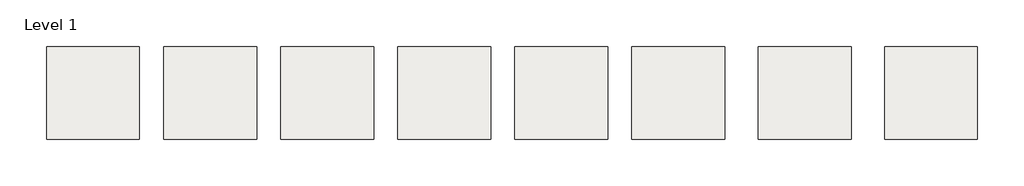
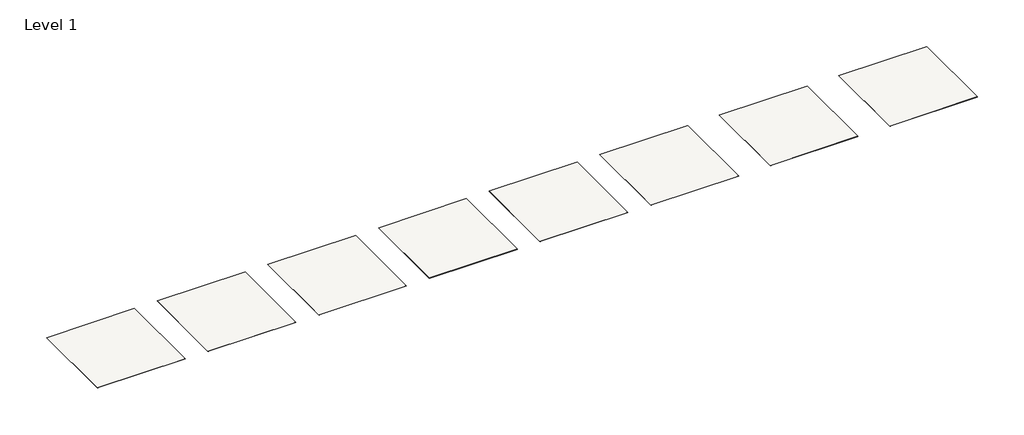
# One storey: 8 slabs.
"""IFC4 building model written with IfcOpenShell, lengths in millimetres."""

import ifcopenshell
import ifcopenshell.guid

model = None  # the IFC model being written
_history = None  # IfcOwnerHistory: only IFC2X3 demands one
_inside = {}  # id of a spatial element -> (the spatial element, [elements in it])
_under = {}  # id of a project, library or spatial element -> (it, [spatial elements below it])
_declared = {}  # id of a project -> (the project, [libraries it declares])
_typed = {}  # id of a type object -> (the type object, [elements of that type])
_made_of = {}  # id of a material, layer set ... -> (it, [elements and type objects made of it])


def new_model(schema):
    """Start an empty IFC model of exactly this schema.

    Asked for "IFC4X3", IfcOpenShell would pick the latest addendum, in which some entities
    have other attributes; the version numbers below select the first issue.
    IFC2X3 requires an IfcOwnerHistory on every rooted entity: one is made here for all.
    """
    global model, _history
    if schema == "IFC4X3":
        model = ifcopenshell.file(schema_version=(4, 3, 0, 0))
    else:
        model = ifcopenshell.file(schema=schema)
    _inside.clear()
    _under.clear()
    _declared.clear()
    _typed.clear()
    _made_of.clear()
    _history = None
    if model.schema == "IFC2X3":
        org = make("IfcOrganization", Name="unknown")
        user = make(
            "IfcPersonAndOrganization",
            ThePerson=make("IfcPerson", FamilyName="unknown"),
            TheOrganization=org,
        )
        app = make(
            "IfcApplication",
            ApplicationDeveloper=org,
            Version="unknown",
            ApplicationFullName="unknown",
            ApplicationIdentifier="unknown",
        )
        _history = make(
            "IfcOwnerHistory",
            OwningUser=user,
            OwningApplication=app,
            ChangeAction="ADDED",
            CreationDate=0,
        )
    return model


def make(cls, **values):
    """One entity of the class cls with the attributes given. An attribute that is None is left unset."""
    return model.create_entity(
        cls, **{name: value for name, value in values.items() if value is not None}
    )


def rooted(cls, **values):
    """An entity with a GlobalId (a new one), such as an element, a storey or a relation."""
    return make(cls, GlobalId=ifcopenshell.guid.new(), OwnerHistory=_history, **values)


def si_unit(unit_type, name, prefix=None):
    """IfcSIUnit, for example si_unit("LENGTHUNIT", "METRE", prefix="MILLI")."""
    return make("IfcSIUnit", UnitType=unit_type, Prefix=prefix, Name=name)


def assignment(units):
    """IfcUnitAssignment: the units of a project."""
    return None if units is None else make("IfcUnitAssignment", Units=units)


def point(xyz):
    """IfcCartesianPoint."""
    return None if xyz is None else make("IfcCartesianPoint", Coordinates=xyz)


def direction(xyz):
    """IfcDirection."""
    return None if xyz is None else make("IfcDirection", DirectionRatios=xyz)


def frame(location, z_axis=None, x_axis=None):
    """IfcAxis2Placement3D, a coordinate frame: its origin and axes. An axis left out is left unset."""
    return make(
        "IfcAxis2Placement3D",
        Location=point(location),
        Axis=direction(z_axis),
        RefDirection=direction(x_axis),
    )


def origin():
    """The frame at (0, 0, 0) with its axes left unset."""
    return frame((0.0, 0.0, 0.0))


def place(relative_to, where):
    """IfcLocalPlacement: puts the frame where relative to a parent placement (None: the world)."""
    return make(
        "IfcLocalPlacement", PlacementRelTo=relative_to, RelativePlacement=where
    )


def context(
    kind, dimensions, precision=None, world=None, true_north=None, identifier=None
):
    """IfcGeometricRepresentationContext, for example the 3D "Model" context."""
    return make(
        "IfcGeometricRepresentationContext",
        ContextIdentifier=identifier,
        ContextType=kind,
        CoordinateSpaceDimension=dimensions,
        Precision=precision,
        WorldCoordinateSystem=world,
        TrueNorth=true_north,
    )


def project(units=None, contexts=None):
    """IfcProject with its units and contexts."""
    return rooted(
        "IfcProject",
        Name="project",
        RepresentationContexts=contexts,
        UnitsInContext=assignment(units),
    )


def spatial(cls, under=None, at=None, **own):
    """A site, building, storey or space (cls), placed at a placement, below another one or the project."""
    s = rooted(cls, ObjectPlacement=at, **own)
    if under is not None:
        _under.setdefault(under.id(), (under, []))[1].append(s)
    return s


def polyline(points):
    """IfcPolyline through the points."""
    return make("IfcPolyline", Points=[point(p) for p in points])


def outline(outer, holes=None, kind="AREA"):
    """IfcArbitraryClosedProfileDef: a profile drawn as a closed curve; with holes, ...WithVoids."""
    if holes is None:
        return make("IfcArbitraryClosedProfileDef", ProfileType=kind, OuterCurve=outer)
    return make(
        "IfcArbitraryProfileDefWithVoids",
        ProfileType=kind,
        OuterCurve=outer,
        InnerCurves=holes,
    )


def extrude(swept, where, along, depth):
    """IfcExtrudedAreaSolid: the profile swept, set in the frame where, extruded along a direction by depth."""
    return make(
        "IfcExtrudedAreaSolid",
        SweptArea=swept,
        Position=where,
        ExtrudedDirection=direction(along),
        Depth=depth,
    )


def shape(context_of_items, identifier, shape_type, items):
    """IfcShapeRepresentation: the items that make up one representation, for example the "Body"."""
    return make(
        "IfcShapeRepresentation",
        ContextOfItems=context_of_items,
        RepresentationIdentifier=identifier,
        RepresentationType=shape_type,
        Items=items,
    )


def made_of(thing, what):
    """Note that an element or type object is made of a material, layer set ...; save() writes the relation."""
    if what is not None:
        _made_of.setdefault(what.id(), (what, []))[1].append(thing)
    return thing


def element(
    cls,
    number,
    at=None,
    inside=None,
    cuts=None,
    type_object=None,
    material=None,
    context=None,
    identifier="Body",
    shape_type=None,
    held_by="IfcProductDefinitionShape",
    body=None,
    shapes=None,
    **own,
):
    """One element of the class cls, such as IfcWall. Its Tag is "e" and its number.

    at: its placement. inside: the storey or other place that contains it. cuts: it is an
    opening in that element (IfcRelVoidsElement). A single representation is given by context,
    identifier, shape_type and body (its items); several are given by shapes. held_by: the class
    of the entity that holds the representations. save() writes the other relations.
    """
    e = rooted(cls, Tag="e%d" % number, ObjectPlacement=at, **own)
    if body is not None:
        shapes = [shape(context, identifier, shape_type, body)]
    if shapes is not None:
        e.Representation = make(held_by, Representations=shapes)
    if inside is not None:
        _inside.setdefault(inside.id(), (inside, []))[1].append(e)
    if cuts is not None:
        rooted(
            "IfcRelVoidsElement", RelatingBuildingElement=cuts, RelatedOpeningElement=e
        )
    if type_object is not None:
        _typed.setdefault(type_object.id(), (type_object, []))[1].append(e)
    return made_of(e, material)


def aggregate(whole, parts):
    """IfcRelAggregates: a whole, such as a stair, and the parts it consists of."""
    return rooted("IfcRelAggregates", RelatingObject=whole, RelatedObjects=parts)


def save(model, path):
    """Write the relations noted so far, then the file.

    IfcRelAggregates (storeys below a building ...), IfcRelContainedInSpatialStructure (elements
    in a storey), IfcRelDefinesByType, IfcRelAssociatesMaterial and IfcRelDeclares: one each for
    every whole, place, type object, material and project.
    """
    for whole, parts in _under.values():
        aggregate(whole, parts)
    for where, things in _inside.values():
        rooted(
            "IfcRelContainedInSpatialStructure",
            RelatedElements=things,
            RelatingStructure=where,
        )
    for kind, things in _typed.values():
        rooted("IfcRelDefinesByType", RelatedObjects=things, RelatingType=kind)
    for what, things in _made_of.values():
        rooted("IfcRelAssociatesMaterial", RelatedObjects=things, RelatingMaterial=what)
    for by, libraries in _declared.values():
        rooted("IfcRelDeclares", RelatingContext=by, RelatedDefinitions=libraries)
    model.write(path)


model = new_model("IFC4")

# Units and contexts
model_context = context("Model", 3, world=origin())
ifc_project = project(units=[si_unit("LENGTHUNIT", "METRE", prefix="MILLI")], contexts=[model_context])

# Site, building, storey
site = spatial("IfcSite", under=ifc_project)
building = spatial("IfcBuilding", under=site)
storey = spatial("IfcBuildingStorey", under=building, Name="Level 1", Elevation=0.0)

# Slabs
placement = place(None, origin())
element("IfcSlab", 1, ObjectType="Thesize_Neolith_3mm+-Basalt Grey- 3600x1200 mm-Satin", at=placement, inside=storey, context=model_context, shape_type="SweptSolid", body=[
    extrude(outline(polyline([(46732.6076717, -34257.477561), (46732.6076717, -39257.477561), (41732.6076717, -39257.477561), (41732.6076717, -34257.477561), (46732.6076717, -34257.477561)])), frame((0.0, 0.0, -3.0), z_axis=(0.0, 0.0, 1.0), x_axis=(1.0, 0.0, 0.0)), (0.0, 0.0, 1.0), 3.0),
])
element("IfcSlab", 2, ObjectType="Thesize_Neolith_6mm+- Basalt Grey- 3200x1500 mm-Satin", at=placement, inside=storey, context=model_context, shape_type="SweptSolid", body=[
    extrude(outline(polyline([(53032.6076717, -34257.4775611), (53032.6076717, -39257.477561), (48032.6076717, -39257.477561), (48032.6076717, -34257.4775611), (53032.6076717, -34257.4775611)])), frame((0.0, 0.0, -6.0), z_axis=(0.0, 0.0, 1.0), x_axis=(1.0, 0.0, 0.0)), (0.0, 0.0, 1.0), 6.0),
])
element("IfcSlab", 3, ObjectType="Thesize_Neolith_12mm- Basalt Grey-3200x1600 mm-Satin", at=placement, inside=storey, context=model_context, shape_type="SweptSolid", body=[
    extrude(outline(polyline([(59332.6076717, -34257.4775611), (59332.6076717, -39257.4775611), (54332.6076717, -39257.4775611), (54332.6076717, -34257.4775611), (59332.6076717, -34257.4775611)])), frame((0.0, 0.0, -12.0), z_axis=(0.0, 0.0, 1.0), x_axis=(1.0, 0.0, 0.0)), (0.0, 0.0, 1.0), 12.0),
])
element("IfcSlab", 4, ObjectType="Thesize_Neolith_20mm- Basalt Grey-3200x1600 mm-Satin", at=placement, inside=storey, context=model_context, shape_type="SweptSolid", body=[
    extrude(outline(polyline([(65632.6076717, -34257.4775611), (65632.6076717, -39257.4775611), (60632.6076717, -39257.4775611), (60632.6076717, -34257.4775611), (65632.6076717, -34257.4775611)])), frame((0.0, 0.0, -20.0), z_axis=(0.0, 0.0, 1.0), x_axis=(1.0, 0.0, 0.0)), (0.0, 0.0, 1.0), 20.0),
])
element("IfcSlab", 5, ObjectType="Thesize_Neolith_12mm- Basalt Grey-3200x1600 mm-Silk", at=placement, inside=storey, context=model_context, shape_type="SweptSolid", body=[
    extrude(outline(polyline([(71932.6076717, -34257.4775611), (71932.6076717, -39257.4775611), (66932.6076717, -39257.4775611), (66932.6076717, -34257.4775611), (71932.6076717, -34257.4775611)])), frame((0.0, 0.0, -12.0), z_axis=(0.0, 0.0, 1.0), x_axis=(1.0, 0.0, 0.0)), (0.0, 0.0, 1.0), 12.0),
])
element("IfcSlab", 6, ObjectType="Thesize_Neolith_6mm+- Basalt Grey- 3200x1500 mm-Silk", at=placement, inside=storey, context=model_context, shape_type="SweptSolid", body=[
    extrude(outline(polyline([(78232.6076717, -34257.4775611), (78232.6076717, -39257.4775611), (73232.6076717, -39257.4775611), (73232.6076717, -34257.4775611), (78232.6076717, -34257.4775611)])), frame((0.0, 0.0, -6.0), z_axis=(0.0, 0.0, 1.0), x_axis=(1.0, 0.0, 0.0)), (0.0, 0.0, 1.0), 6.0),
])
element("IfcSlab", 7, ObjectType="Thesize_Neolith_6mm+-Basalt Grey- 3600x1200 mm-Satin", at=placement, inside=storey, context=model_context, shape_type="SweptSolid", body=[
    extrude(outline(polyline([(85032.6076717, -34257.4775611), (85032.6076717, -39257.4775611), (80032.6076717, -39257.4775611), (80032.6076717, -34257.4775611), (85032.6076717, -34257.4775611)])), frame((0.0, 0.0, -6.0), z_axis=(0.0, 0.0, 1.0), x_axis=(1.0, 0.0, 0.0)), (0.0, 0.0, 1.0), 6.0),
])
element("IfcSlab", 8, ObjectType="Thesize_Neolith_6mm-Basalt Grey- 2600x1200 mm-Satin", at=placement, inside=storey, context=model_context, shape_type="SweptSolid", body=[
    extrude(outline(polyline([(91832.6076717, -34257.4775611), (91832.6076717, -39257.4775611), (86832.6076717, -39257.4775611), (86832.6076717, -34257.4775611), (91832.6076717, -34257.4775611)])), frame((0.0, 0.0, -6.0), z_axis=(0.0, 0.0, 1.0), x_axis=(1.0, 0.0, 0.0)), (0.0, 0.0, 1.0), 6.0),
])

save(model, "model.ifc")
